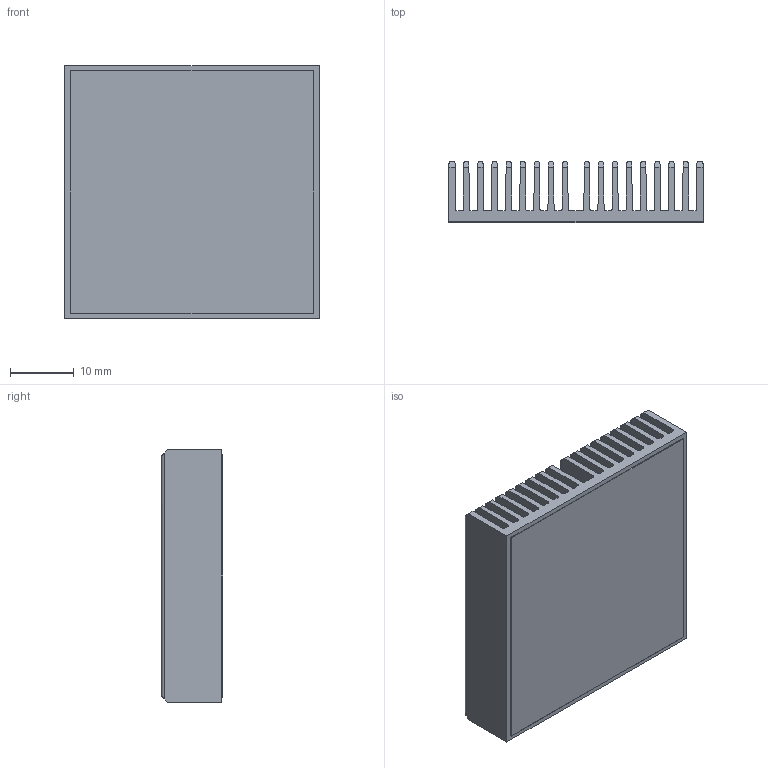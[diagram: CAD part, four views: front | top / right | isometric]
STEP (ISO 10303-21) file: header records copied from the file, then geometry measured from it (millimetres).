
FILE_DESCRIPTION (( 'STEP AP214' ), '1' );
FILE_NAME ('INL40001-10-1.7.STEP', '2023-03-01T17:06:24', ( '' ), ( '' ), 'SwSTEP 2.0', 'SolidWorks 2020', '' );
FILE_SCHEMA (( 'AUTOMOTIVE_DESIGN' ));
Length unit declared in the file: millimetre
Products named in the file (1): INL40001-10-1.7
Bounding box: 39.8 x 9.63 x 39.5 mm (x, y, z)
Volume: 7755.2 mm3; surface area: 17125.4 mm2
Topology: 2 solids, 2 shells, 150 faces, 438 edges, 292 vertices
Faces by surface type: plane 98, cylinder 52
Entity records: 6623 total; most frequent: CARTESIAN_POINT 989, ORIENTED_EDGE 876, DIRECTION 772, EDGE_CURVE 438, LINE 334, VECTOR 334, VERTEX_POINT 292, AXIS2_PLACEMENT_3D 219
